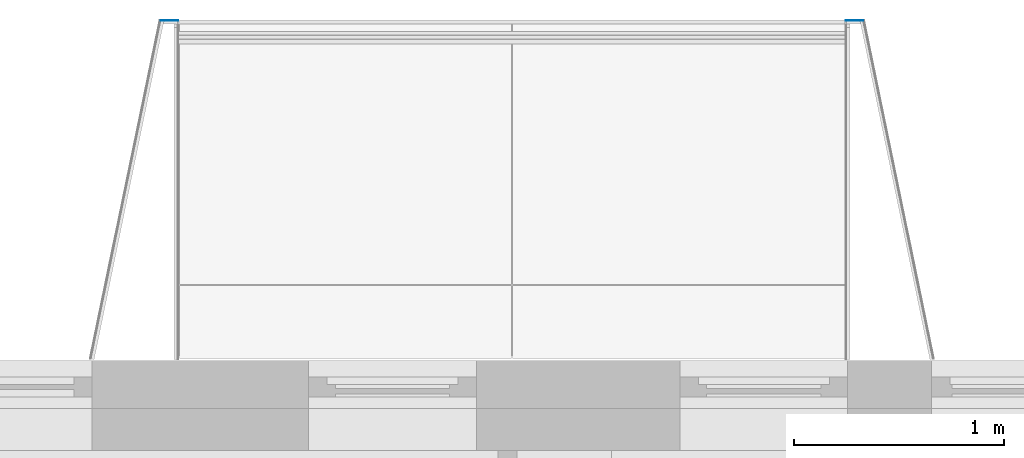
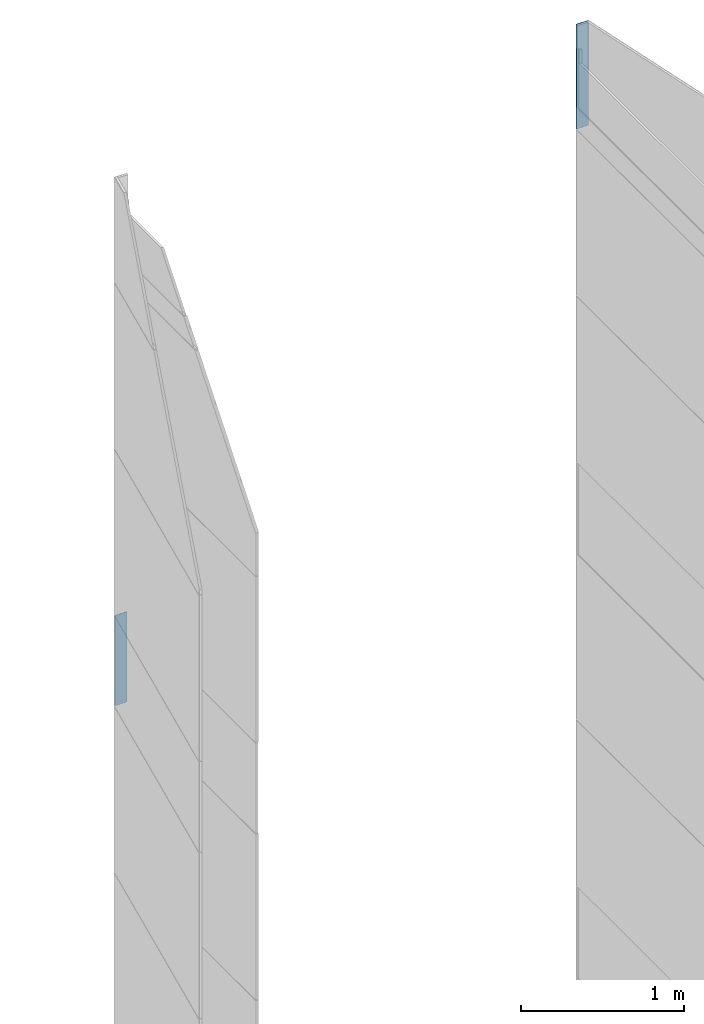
# One storey, part 36 of 125: 2 building element parts, 2 elements without a shape of their own.
"""IFC2X3 building model written with IfcOpenShell, lengths in millimetres."""

from ifc_helpers import new_model, entity, si_unit, converted_unit, direction, frame, origin, place, context, subcontext, project, spatial, polyline, outline, extrude, material, type_object, element, aggregate, save


model = new_model("IFC2X3")

# Units and contexts
model_context = context("Model", 3, precision=0.01, world=origin(), true_north=direction((6.123233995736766e-17, 1.0)))
plan_context = context("Plan", 3, precision=0.01, world=origin(), true_north=direction((6.123233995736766e-17, 1.0)))
body_context = subcontext(model_context, "Body", "Model", "MODEL_VIEW")
ifc_project = project(units=[si_unit("LENGTHUNIT", "METRE", prefix="MILLI"), converted_unit("PLANEANGLEUNIT", "DEGREE", entity("IfcPlaneAngleMeasure", 0.017453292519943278), si_unit("PLANEANGLEUNIT", "RADIAN"), dimensions=[0, 0, 0, 0, 0, 0, 0]), si_unit("AREAUNIT", "SQUARE_METRE")], contexts=[model_context, plan_context])

# Site, building, storey
site_placement = place(None, origin())
site = spatial("IfcSite", under=ifc_project, at=site_placement, Name="Default", CompositionType="ELEMENT")
building_placement = place(site_placement, origin())
building = spatial("IfcBuilding", under=site, at=building_placement, CompositionType="ELEMENT")
storey_placement = place(building_placement, frame((0.0, 0.0, 3125.0)))
storey = spatial("IfcBuildingStorey", under=building, at=storey_placement, Name="2K", CompositionType="ELEMENT", Elevation=3125.0)

# Wall, building element part
wall_type = type_object("IfcWallType", Name="Basic Wall:VS-komposiit", PredefinedType="STANDARD")
wall_1_placement = place(storey_placement, frame((4963.640832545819, 17442.0, -1010.0)))
wall_1 = element("IfcWall", 1, at=wall_1_placement, inside=storey, type_object=wall_type, Name="Basic Wall:VS-komposiit", ObjectType="Basic Wall:VS-komposiit")
ifc_material = material(Name="_K. Välisviimistlus. Alumiinium-komposiitplaat")
building_element_part_1_placement = place(wall_1_placement, origin())
building_element_part_1 = element("IfcBuildingElementPart", 2, at=building_element_part_1_placement, material=ifc_material, Name="Part", context=body_context, shape_type="SweptSolid", body=[
    extrude(outline(polyline([(-42.61260185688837, -2.0), (42.20013519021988, -2.0), (42.20013519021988, 2.0), (-41.78766852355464, 2.0), (-42.61260185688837, -2.0)])), frame((29.57562070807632, 8.0, 9757.499999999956)), (0.0, 0.0, 1.0), 675.0000000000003),
])
aggregate(wall_1, [building_element_part_1])

wall_2_placement = place(storey_placement, frame((8286.775755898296, 17442.0, -1010.0), z_axis=(0.0, 0.0, 1.0), x_axis=(-1.0, 0.0, 0.0)))
wall_2 = element("IfcWall", 3, at=wall_2_placement, inside=storey, type_object=wall_type, Name="Basic Wall:VS-komposiit", ObjectType="Basic Wall:VS-komposiit")
building_element_part_2_placement = place(wall_2_placement, origin())
building_element_part_2 = element("IfcBuildingElementPart", 4, at=building_element_part_2_placement, material=ifc_material, Name="Part", context=body_context, shape_type="SweptSolid", body=[
    extrude(outline(polyline([(-2.0, -42.20013519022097), (2.0, -42.20013519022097), (2.0, 42.61260185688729), (-2.0, 41.787668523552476), (-2.0, -42.20013519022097)])), frame((29.575620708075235, -8.0, 12927.499999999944), z_axis=(0.0, 0.0, 1.0), x_axis=(0.0, 1.0, 0.0)), (0.0, 0.0, 1.0), 783.5000000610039),
])
aggregate(wall_2, [building_element_part_2])

save(model, "model.ifc")
